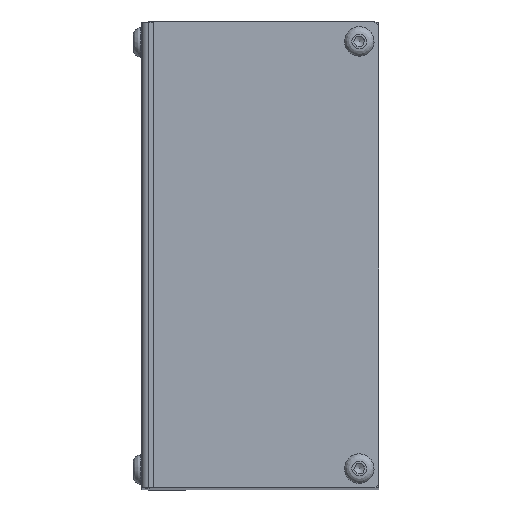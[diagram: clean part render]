
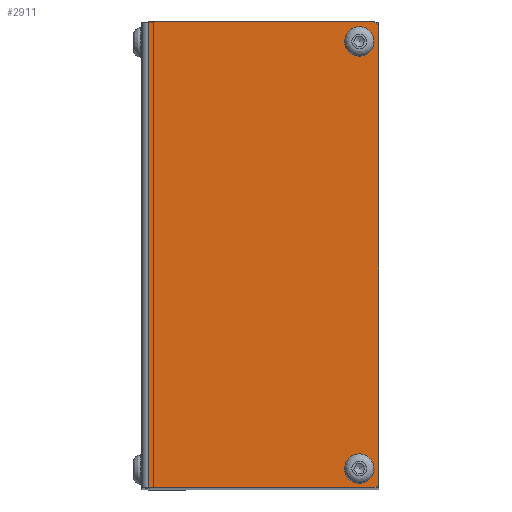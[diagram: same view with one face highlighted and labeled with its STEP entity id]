
A CAD part, top view. The second image highlights one B-rep face of the part: STEP entity #2911.
In plain terms, the highlighted planar face has unit normal (0, 0, 1).
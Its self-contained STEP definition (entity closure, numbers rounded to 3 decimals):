
#71=LINE('',#4546,#271);
#75=LINE('',#4555,#275);
#97=LINE('',#4610,#297);
#98=LINE('',#4612,#298);
#99=LINE('',#4613,#299);
#100=LINE('',#4614,#300);
#271=VECTOR('',#3597,1.414);
#275=VECTOR('',#3603,1.414);
#297=VECTOR('',#3665,120.);
#298=VECTOR('',#3668,58.2);
#299=VECTOR('',#3669,58.2);
#300=VECTOR('',#3670,118.);
#543=PLANE('',#3157);
#639=FACE_BOUND('',#975,.T.);
#640=FACE_BOUND('',#976,.T.);
#757=FACE_OUTER_BOUND('',#974,.T.);
#974=EDGE_LOOP('',(#2143,#2144,#2145,#2146,#2147,#2148));
#975=EDGE_LOOP('',(#2149));
#976=EDGE_LOOP('',(#2150));
#1176=CIRCLE('',#3158,3.8);
#1177=CIRCLE('',#3159,3.8);
#1347=VERTEX_POINT('',#4543);
#1348=VERTEX_POINT('',#4545);
#1351=VERTEX_POINT('',#4552);
#1352=VERTEX_POINT('',#4554);
#1362=VERTEX_POINT('',#4595);
#1363=VERTEX_POINT('',#4600);
#1366=VERTEX_POINT('',#4615);
#1367=VERTEX_POINT('',#4617);
#1630=EDGE_CURVE('',#1347,#1348,#71,.T.);
#1634=EDGE_CURVE('',#1351,#1352,#75,.T.);
#1665=EDGE_CURVE('',#1362,#1363,#97,.T.);
#1666=EDGE_CURVE('',#1362,#1347,#98,.T.);
#1667=EDGE_CURVE('',#1352,#1363,#99,.T.);
#1668=EDGE_CURVE('',#1348,#1351,#100,.T.);
#1669=EDGE_CURVE('',#1366,#1366,#1176,.T.);
#1670=EDGE_CURVE('',#1367,#1367,#1177,.T.);
#2143=ORIENTED_EDGE('',*,*,#1630,.F.);
#2144=ORIENTED_EDGE('',*,*,#1666,.F.);
#2145=ORIENTED_EDGE('',*,*,#1665,.T.);
#2146=ORIENTED_EDGE('',*,*,#1667,.F.);
#2147=ORIENTED_EDGE('',*,*,#1634,.F.);
#2148=ORIENTED_EDGE('',*,*,#1668,.F.);
#2149=ORIENTED_EDGE('',*,*,#1669,.T.);
#2150=ORIENTED_EDGE('',*,*,#1670,.T.);
#2911=ADVANCED_FACE('',(#757,#639,#640),#543,.F.);
#3157=AXIS2_PLACEMENT_3D('',#4611,#3666,#3667);
#3158=AXIS2_PLACEMENT_3D('',#4616,#3671,#3672);
#3159=AXIS2_PLACEMENT_3D('',#4618,#3673,#3674);
#3597=DIRECTION('',(0.707,-0.707,0.));
#3603=DIRECTION('',(-0.707,-0.707,0.));
#3665=DIRECTION('',(0.,-1.,0.));
#3666=DIRECTION('center_axis',(0.,0.,
-1.));
#3667=DIRECTION('ref_axis',(0.,-1.,0.));
#3668=DIRECTION('',(1.,0.,0.));
#3669=DIRECTION('',(-1.,0.,0.));
#3670=DIRECTION('',(0.,-1.,0.));
#3671=DIRECTION('center_axis',(0.,0.,
-1.));
#3672=DIRECTION('ref_axis',(0.91,-0.414,0.));
#3673=DIRECTION('center_axis',(0.,0.,
-1.));
#3674=DIRECTION('ref_axis',(0.91,-0.414,0.));
#4543=CARTESIAN_POINT('',(60.,120.,297.));
#4545=CARTESIAN_POINT('',(61.,119.,297.));
#4546=CARTESIAN_POINT('',(67.875,112.125,297.));
#4552=CARTESIAN_POINT('',(61.,1.,297.));
#4554=CARTESIAN_POINT('',(60.,0.,297.));
#4555=CARTESIAN_POINT('',(67.875,7.875,297.));
#4595=CARTESIAN_POINT('',(1.8,120.,297.));
#4600=CARTESIAN_POINT('',(1.8,0.,297.));
#4610=CARTESIAN_POINT('',(1.8,30.,297.));
#4611=CARTESIAN_POINT('Origin',(30.5,60.,297.));
#4612=CARTESIAN_POINT('',(0.,120.,297.));
#4613=CARTESIAN_POINT('',(61.,0.,297.));
#4614=CARTESIAN_POINT('',(61.,120.,297.));
#4615=CARTESIAN_POINT('',(59.459,113.427,297.));
#4616=CARTESIAN_POINT('Origin',(56.,115.,297.));
#4617=CARTESIAN_POINT('',(59.459,3.427,297.));
#4618=CARTESIAN_POINT('Origin',(56.,5.,297.));
